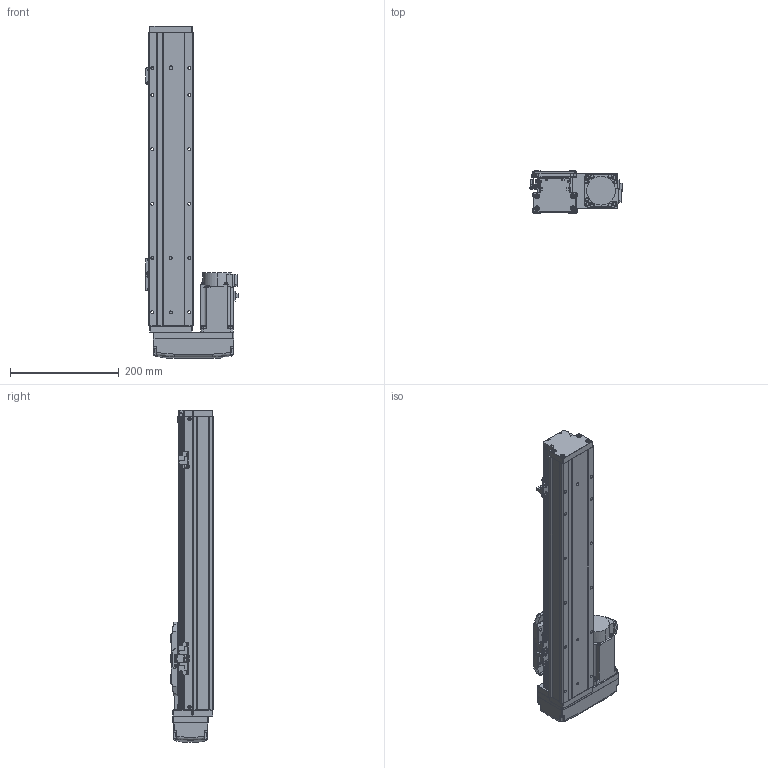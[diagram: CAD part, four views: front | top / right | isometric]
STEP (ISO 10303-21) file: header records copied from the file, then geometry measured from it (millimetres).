
FILE_DESCRIPTION (( 'STEP AP203' ), '1' );
FILE_NAME ('GTH8-350-BR-M20-C4.step', '2022-09-23T01:09:54', ( '微软用户' ), ( '微软中国' ), 'SwSTEP 2.0', 'SolidWorks 2020', '' );
FILE_SCHEMA (( 'CONFIG_CONTROL_DESIGN' ));
Length unit declared in the file: millimetre
Products named in the file (18): BTH-M3X5X6; GTH80-001_350; GBT 70.1-M3℅6; hg-kn43j_-s100_; GTH80-003; GBT 70.1-M4×16; CTHA86-015-1_CTHA86-015-2; GTH80-004; GTH80-028; CTHA86-033_M40B; GTH80-006; GTH50-024; GTH8-350-BR-M20-C4; GTH80-013; GTH50-023; GBT 70.3-M3℅6; GBT96.1-2002 3×0.8; GTH80-022
Assembly tree (57 placements, depth 2):
  GTH8-350-BR-M20-C4
    GTH80-001_350
    GTH80-003
    GTH80-004
    GTH80-006
    GTH80-013
    GBT 70.3-M3℅6  x4
    GTH80-022
    GBT 70.1-M3℅6  x14
    GBT 70.1-M4×16  x8
    GTH80-028  x2
    GTH50-024  x3
    GTH50-023  x3
    GBT96.1-2002 3×0.8  x6
    BTH-M3X5X6  x8
    hg-kn43j_-s100_
    CTHA86-015-1_CTHA86-015-2
    CTHA86-033_M40B
Bounding box: 169.7 x 78 x 611 mm (x, y, z)
Volume: 3328779.9 mm3; surface area: 379891.1 mm2
Topology: 59 solids, 59 shells, 2232 faces, 5151 edges, 3155 vertices
Faces by surface type: plane 1187, cylinder 603, cone 260, torus 166, bspline 8, sphere 8
Entity records: 40626 total; most frequent: CARTESIAN_POINT 7145, DIRECTION 6593, ORIENTED_EDGE 6120, EDGE_CURVE 3060, AXIS2_PLACEMENT_3D 2301, VECTOR 1991, LINE 1991, VERTEX_POINT 1930
